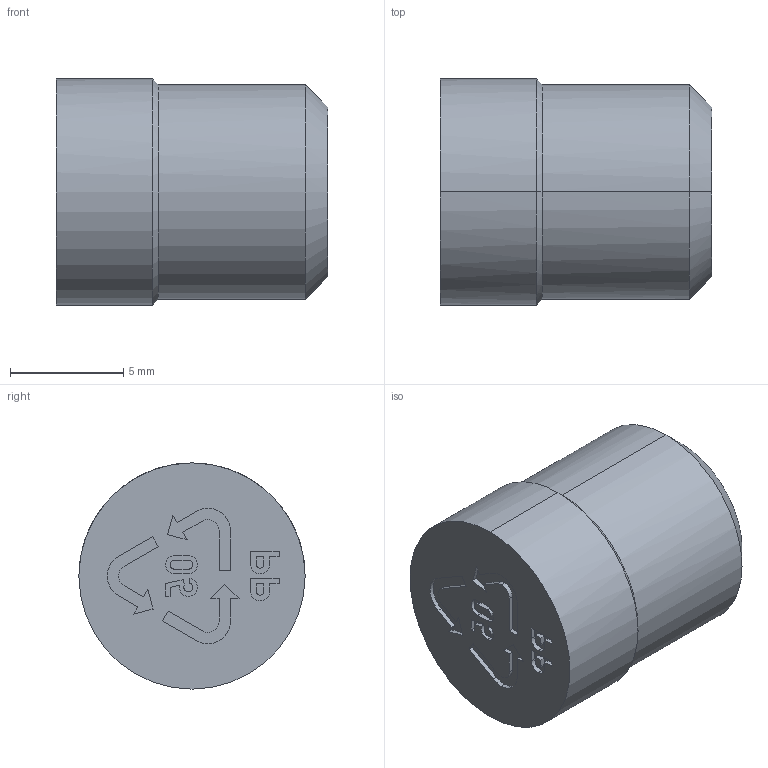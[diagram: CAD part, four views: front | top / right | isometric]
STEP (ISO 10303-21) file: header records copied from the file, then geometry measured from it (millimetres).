
FILE_DESCRIPTION(('CATIA V5 STEP Exchange'),'2;1');
FILE_NAME('C:\Users\Utente\Desktop\IO LAVORO\3D X SITO CF\X SITO\PLASTICA\CFMR\MSO510.stp','2021-03-26T13:39:15+00:00',('none'),('none'),'CATIA Version 5 Release 20 GA (IN-10)','CATIA V5 STEP AP203','none');
FILE_SCHEMA(('CONFIG_CONTROL_DESIGN'));
Length unit declared in the file: millimetre
Products named in the file (1): MSO510
Bounding box: 12 x 10 x 10 mm (x, y, z)
Volume: 811.1 mm3; surface area: 575.9 mm2
Topology: 1 solids, 1 shells, 106 faces, 288 edges, 193 vertices
Faces by surface type: plane 66, cylinder 32, cone 8
Entity records: 3385 total; most frequent: CARTESIAN_POINT 693, ORIENTED_EDGE 572, DIRECTION 483, EDGE_CURVE 286, VECTOR 202, LINE 202, VERTEX_POINT 193, AXIS2_PLACEMENT_3D 176
